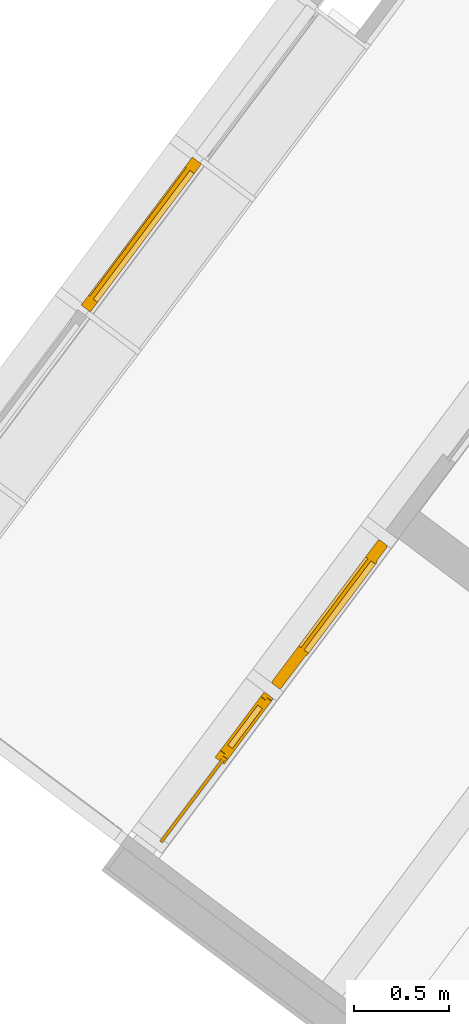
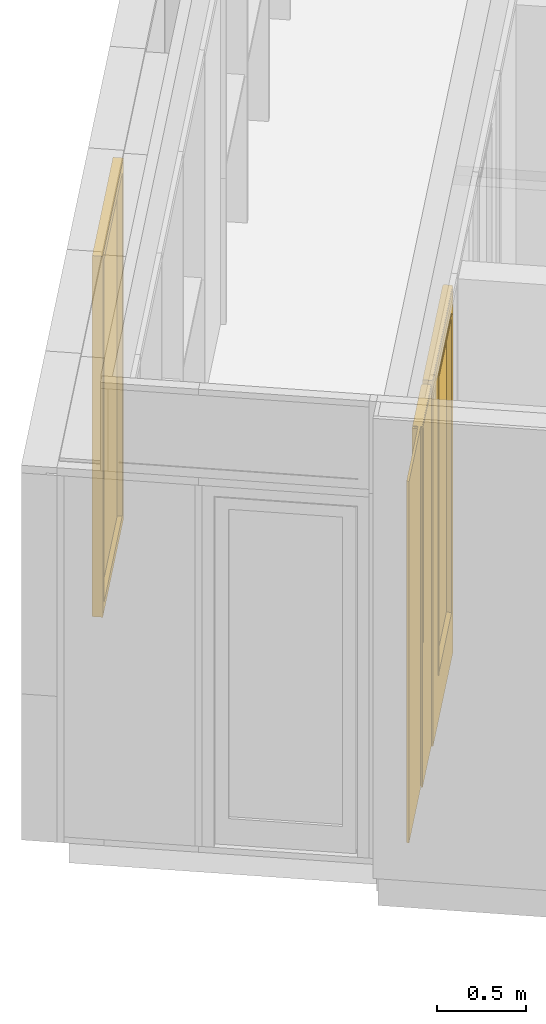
# One storey, part 158 of 243: 2 windows, 1 door, 2 elements without a shape of their own.
"""IFC2X3 building model written with IfcOpenShell, lengths in metres."""

from ifc_helpers import new_model, entity, si_unit, converted_unit, derived_unit, direction, frame, origin, place, context, subcontext, project, spatial, faceted_brep, source, transform, mapped, material, material_list, type_object, type_shapes, element, aggregate, save


model = new_model("IFC2X3")

# Units and contexts
model_context = context("Model", 3, precision=1e-05, world=origin(), true_north=direction((6.123031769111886e-17, 1.0)))
body_context = subcontext(model_context, "Body", "Model", "MODEL_VIEW")
ifc_project = project(units=[si_unit("LENGTHUNIT", "METRE"), si_unit("AREAUNIT", "SQUARE_METRE"), si_unit("VOLUMEUNIT", "CUBIC_METRE"), converted_unit("PLANEANGLEUNIT", "DEGREE", entity("IfcRatioMeasure", 0.017453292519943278), si_unit("PLANEANGLEUNIT", "RADIAN"), dimensions=[0, 0, 0, 0, 0, 0, 0]), si_unit("MASSUNIT", "GRAM", prefix="KILO"), derived_unit("MASSDENSITYUNIT", [(si_unit("MASSUNIT", "GRAM", prefix="KILO"), 1), (si_unit("LENGTHUNIT", "METRE"), -3)]), derived_unit("IONCONCENTRATIONUNIT", [(si_unit("MASSUNIT", "GRAM", prefix="KILO"), 1), (si_unit("LENGTHUNIT", "METRE"), -3)]), derived_unit("MOMENTOFINERTIAUNIT", [(si_unit("LENGTHUNIT", "METRE"), 4)]), si_unit("TIMEUNIT", "SECOND"), si_unit("FREQUENCYUNIT", "HERTZ"), si_unit("THERMODYNAMICTEMPERATUREUNIT", "DEGREE_CELSIUS"), derived_unit("THERMALTRANSMITTANCEUNIT", [(si_unit("MASSUNIT", "GRAM", prefix="KILO"), 1), (si_unit("THERMODYNAMICTEMPERATUREUNIT", "KELVIN"), -1), (si_unit("TIMEUNIT", "SECOND"), -3)]), derived_unit("THERMALCONDUCTANCEUNIT", [(si_unit("MASSUNIT", "GRAM", prefix="KILO"), 1), (si_unit("THERMODYNAMICTEMPERATUREUNIT", "KELVIN"), -1), (si_unit("TIMEUNIT", "SECOND"), -3), (si_unit("LENGTHUNIT", "METRE"), 1)]), derived_unit("VOLUMETRICFLOWRATEUNIT", [(si_unit("LENGTHUNIT", "METRE"), 3), (si_unit("TIMEUNIT", "SECOND"), -1)]), derived_unit("MASSFLOWRATEUNIT", [(si_unit("MASSUNIT", "GRAM", prefix="KILO"), 1), (si_unit("TIMEUNIT", "SECOND"), -1)]), derived_unit("ROTATIONALFREQUENCYUNIT", [(si_unit("TIMEUNIT", "SECOND"), -1)]), si_unit("ELECTRICCURRENTUNIT", "AMPERE"), si_unit("ELECTRICVOLTAGEUNIT", "VOLT"), si_unit("POWERUNIT", "WATT"), si_unit("FORCEUNIT", "NEWTON", prefix="KILO"), si_unit("ILLUMINANCEUNIT", "LUX"), si_unit("LUMINOUSFLUXUNIT", "LUMEN"), si_unit("LUMINOUSINTENSITYUNIT", "CANDELA"), derived_unit("USERDEFINED", [(si_unit("MASSUNIT", "GRAM", prefix="KILO"), -1), (si_unit("LENGTHUNIT", "METRE"), -2), (si_unit("TIMEUNIT", "SECOND"), 3), (si_unit("LUMINOUSFLUXUNIT", "LUMEN"), 1)]), derived_unit("USERDEFINED", [(si_unit("MASSUNIT", "GRAM", prefix="KILO"), 1), (si_unit("TIMEUNIT", "SECOND"), -3), (si_unit("LENGTHUNIT", "METRE"), 3), (si_unit("ELECTRICCURRENTUNIT", "AMPERE"), -2)]), derived_unit("SOUNDPOWERUNIT", [(si_unit("MASSUNIT", "GRAM", prefix="KILO"), 1), (si_unit("TIMEUNIT", "SECOND"), -3), (si_unit("LENGTHUNIT", "METRE"), 2)]), derived_unit("SOUNDPRESSUREUNIT", [(si_unit("MASSUNIT", "GRAM", prefix="KILO"), 1), (si_unit("LENGTHUNIT", "METRE"), -1), (si_unit("TIMEUNIT", "SECOND"), -2)]), derived_unit("LINEARVELOCITYUNIT", [(si_unit("LENGTHUNIT", "METRE"), 1), (si_unit("TIMEUNIT", "SECOND"), -1)]), si_unit("PRESSUREUNIT", "PASCAL"), derived_unit("USERDEFINED", [(si_unit("MASSUNIT", "GRAM", prefix="KILO"), 1), (si_unit("LENGTHUNIT", "METRE"), -2), (si_unit("TIMEUNIT", "SECOND"), -2)]), derived_unit("LINEARFORCEUNIT", [(si_unit("MASSUNIT", "GRAM", prefix="KILO"), 1), (si_unit("TIMEUNIT", "SECOND"), -2)]), derived_unit("PLANARFORCEUNIT", [(si_unit("MASSUNIT", "GRAM", prefix="KILO"), 1), (si_unit("LENGTHUNIT", "METRE"), -1), (si_unit("TIMEUNIT", "SECOND"), -2)]), derived_unit("SPECIFICHEATCAPACITYUNIT", [(si_unit("THERMODYNAMICTEMPERATUREUNIT", "KELVIN"), -1), (si_unit("LENGTHUNIT", "METRE"), 2), (si_unit("TIMEUNIT", "SECOND"), -2)]), derived_unit("HEATINGVALUEUNIT", [(si_unit("LENGTHUNIT", "METRE"), 2), (si_unit("TIMEUNIT", "SECOND"), -2)]), derived_unit("VAPORPERMEABILITYUNIT", [(si_unit("LENGTHUNIT", "METRE"), -1), (si_unit("TIMEUNIT", "SECOND"), 1)]), derived_unit("DYNAMICVISCOSITYUNIT", [(si_unit("MASSUNIT", "GRAM", prefix="KILO"), 1), (si_unit("TIMEUNIT", "SECOND"), -1), (si_unit("LENGTHUNIT", "METRE"), -1)]), derived_unit("THERMALEXPANSIONCOEFFICIENTUNIT", [(si_unit("THERMODYNAMICTEMPERATUREUNIT", "KELVIN"), -1)]), derived_unit("MODULUSOFELASTICITYUNIT", [(si_unit("MASSUNIT", "GRAM", prefix="KILO"), 1), (si_unit("LENGTHUNIT", "METRE"), -1), (si_unit("TIMEUNIT", "SECOND"), -2)]), derived_unit("ISOTHERMALMOISTURECAPACITYUNIT", [(si_unit("LENGTHUNIT", "METRE"), 3), (si_unit("MASSUNIT", "GRAM", prefix="KILO"), -1)]), derived_unit("MOISTUREDIFFUSIVITYUNIT", [(si_unit("TIMEUNIT", "SECOND"), -1), (si_unit("LENGTHUNIT", "METRE"), 2)])], contexts=[model_context])

# Site, building, storey
site_placement = place(None, frame((0.0, 0.0, 235.0), z_axis=(0.0, 0.0, 1.0), x_axis=(-0.7996477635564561, 0.6004693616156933, 0.0)))
site = spatial("IfcSite", under=ifc_project, at=site_placement, Name="Default", CompositionType="ELEMENT")
building_placement = place(site_placement, origin())
building = spatial("IfcBuilding", under=site, at=building_placement, CompositionType="ELEMENT")
storey_placement = place(building_placement, origin())
storey = spatial("IfcBuildingStorey", under=building, at=storey_placement, Name="P0- Escola", CompositionType="ELEMENT", Elevation=0.0)

# Curtain wall, door, window
curtain_wall_type_1 = type_object("IfcCurtainWallType", Name="Muro cortina:MC- INT- a2", PredefinedType="NOTDEFINED")
curtain_wall_1_placement = place(storey_placement, origin())
curtain_wall_1 = element("IfcCurtainWall", 1, at=curtain_wall_1_placement, inside=storey, type_object=curtain_wall_type_1, Name="Muro cortina:MC- INT- a2", ObjectType="Muro cortina:MC- INT- a2")
ifc_material_1 = material(Name="_Fusta massisa- T1")
ifc_material_2 = material(Name="_Vidre")
ifc_material_list_1 = material_list([ifc_material_1, ifc_material_2])
door_style = type_object("IfcDoorStyle", Name="MC- Fusta- conjunt porta:MC- Fusta- conjunt Porta aules", ConstructionType="NOTDEFINED", OperationType="NOTDEFINED", ParameterTakesPrecedence=False, Sizeable=False, material=ifc_material_list_1)
shared_shape_1 = source(origin(), body_context, "Body", "Brep", [
    faceted_brep([(-0.24500000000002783, -0.024999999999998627, 2.3799999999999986), (-0.24500000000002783, 0.0050000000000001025, 2.3799999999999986), (-0.24500000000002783, 0.0050000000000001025, 0.3299999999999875), (-0.24500000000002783, -0.024999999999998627, 0.3299999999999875), (0.3700000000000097, 0.0050000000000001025, 0.3299999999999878), (0.3700000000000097, -0.024999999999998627, 0.3299999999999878), (0.37000000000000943, 0.0050000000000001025, 2.3799999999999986), (0.37000000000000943, -0.024999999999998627, 2.3799999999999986), (-0.23000000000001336, 0.0050000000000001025, 2.3650000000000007), (-0.23000000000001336, 0.0050000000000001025, 0.34499999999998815), (0.35499999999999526, 0.0050000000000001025, 0.3449999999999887), (0.35499999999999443, 0.0050000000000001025, 2.3650000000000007), (-0.23000000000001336, -0.024999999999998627, 2.3650000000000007), (0.35499999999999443, -0.024999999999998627, 2.3650000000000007), (0.35499999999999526, -0.024999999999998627, 0.3449999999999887), (-0.23000000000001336, -0.024999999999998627, 0.34499999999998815)], [[[0, 1, 2, 3]], [[3, 2, 4, 5]], [[5, 4, 6, 7]], [[8, 9, 10, 11], [1, 6, 4, 2]], [[12, 13, 14, 15], [0, 3, 5, 7]], [[15, 9, 8, 12]], [[14, 10, 9, 15]], [[13, 11, 10, 14]], [[7, 6, 1, 0]], [[12, 8, 11, 13]]], outer=[[True], [True], [True], [False, True], [False, True], [True], [True], [True], [True], [True]]),
    faceted_brep([(-0.43999999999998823, 0.03999999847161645, 0.0), (0.43999999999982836, 0.039999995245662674, 0.0), (0.43999999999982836, 0.009999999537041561, 0.0), (0.45499999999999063, 0.009999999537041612, 0.0), (0.45499999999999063, -0.019999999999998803, 0.0), (-0.4550000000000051, -0.01999999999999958, 0.0), (-0.4550000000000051, 0.0099999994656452, 0.0), (-0.43999999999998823, 0.0099999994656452, 0.0), (-0.4550000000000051, -0.01999999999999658, 2.4899999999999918), (0.45499999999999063, -0.01999999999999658, 2.4899999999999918), (-0.24500000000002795, -0.019999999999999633, 0.3300000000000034), (-0.24500000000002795, -0.01999999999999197, 2.3799999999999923), (0.37000000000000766, -0.019999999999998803, 2.3799999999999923), (0.37000000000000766, -0.019999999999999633, 0.3300000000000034), (-0.45500000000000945, 0.0099999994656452, 2.4899999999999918), (0.45499999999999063, 0.0099999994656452, 2.4899999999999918), (-0.43999999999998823, 0.03999999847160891, 2.4749999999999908), (-0.43999999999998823, 0.0099999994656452, 2.4749999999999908), (0.43999999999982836, 0.0099999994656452, 2.4749999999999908), (0.43999999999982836, 0.039999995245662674, 2.4749999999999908), (0.3549999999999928, 0.03999999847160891, 0.3450000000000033), (0.3549999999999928, 0.03999999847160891, 2.364999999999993), (-0.2300000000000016, 0.039999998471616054, 2.364999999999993), (-0.2300000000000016, 0.03999999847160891, 0.3450000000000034), (-0.2300000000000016, 0.025000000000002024, 0.3450000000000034), (0.3549999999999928, 0.025000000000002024, 0.3450000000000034), (-0.2300000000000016, 0.025000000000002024, 2.364999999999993), (0.3549999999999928, 0.024999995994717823, 2.364999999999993), (0.37000000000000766, 0.025000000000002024, 0.3300000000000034), (0.37000000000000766, 0.025000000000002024, 2.3799999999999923), (-0.24500000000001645, 0.025000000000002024, 2.3799999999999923), (-0.24500000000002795, 0.025000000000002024, 0.3300000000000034), (-0.24500000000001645, 0.024999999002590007, 0.3300000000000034), (-0.24500000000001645, 0.024999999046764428, 2.3799999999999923), (0.3549999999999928, 0.03999999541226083, 2.364999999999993), (-0.2300000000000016, 0.024999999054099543, 2.364999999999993), (0.37000000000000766, 0.02499999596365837, 2.3799999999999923)], [[[0, 1, 2, 3, 4, 5, 6, 7]], [[8, 5, 4, 9], [10, 11, 12, 13]], [[8, 14, 6, 5]], [[15, 9, 4, 3]], [[16, 0, 7, 17]], [[14, 15, 3, 2, 18, 17, 7, 6]], [[18, 2, 1, 19]], [[20, 21, 22, 23], [16, 19, 1, 0]], [[23, 24, 25, 20]], [[23, 22, 26, 24]], [[25, 27, 21, 20]], [[24, 26, 27, 25], [28, 29, 30, 31]], [[13, 28, 32, 10]], [[31, 33, 11, 10]], [[13, 12, 29, 28]], [[9, 15, 14, 8]], [[17, 18, 19, 16]], [[34, 27, 35, 22]], [[11, 30, 36, 12]]], outer=[[True], [True, False], [True], [True], [True], [True], [True], [False, True], [True], [True], [True], [False, True], [True], [True], [True], [True], [True], [True], [True]]),
    faceted_brep([(0.37000000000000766, 0.024999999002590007, 0.3300000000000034), (0.37000000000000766, 0.0050000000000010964, 0.3300000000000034), (-0.2450000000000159, 0.0050000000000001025, 0.3300000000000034), (-0.2450000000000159, 0.024999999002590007, 0.3300000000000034), (0.37000000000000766, 0.024999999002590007, 2.380000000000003), (-0.2450000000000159, 0.024999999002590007, 2.380000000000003), (-0.2450000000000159, 0.0050000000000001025, 2.380000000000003), (0.37000000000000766, 0.0050000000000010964, 2.380000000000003)], [[[0, 1, 2, 3]], [[4, 0, 3, 5]], [[5, 3, 2, 6]], [[6, 2, 1, 7]], [[7, 1, 0, 4]], [[4, 5, 6, 7]]]),
    faceted_brep([(-0.46500000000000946, -0.01999999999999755, 0.0), (-0.46500000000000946, -0.015999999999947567, 0.0), (-0.469999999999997, -0.015999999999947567, 0.0), (-0.469999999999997, 0.03600000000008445, 0.0), (-0.46500000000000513, 0.03600000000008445, 0.0), (-0.46500000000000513, 0.0400000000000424, 0.0), (-0.44000000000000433, 0.0400000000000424, 0.0), (-0.44000000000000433, 0.010000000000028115, 0.0), (-0.4550000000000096, 0.010000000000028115, 0.0), (-0.4550000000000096, -0.01999999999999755, 0.0), (-0.45500000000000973, -0.01999999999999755, 2.4900000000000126), (0.45500000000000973, -0.01999999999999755, 2.4900000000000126), (0.45500000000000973, -0.01999999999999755, 0.0), (0.46500000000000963, -0.01999999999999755, 0.0), (0.46500000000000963, -0.01999999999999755, 2.5000000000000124), (-0.4650000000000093, -0.01999999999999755, 2.500000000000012), (-0.4550000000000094, 0.010000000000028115, 2.4900000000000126), (-0.4400000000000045, 0.010000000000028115, 2.4750000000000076), (0.4400000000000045, 0.010000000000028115, 2.4750000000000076), (0.4400000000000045, 0.010000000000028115, 0.0), (0.45500000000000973, 0.010000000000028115, 0.0), (0.45500000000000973, 0.010000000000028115, 2.4900000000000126), (-0.4400000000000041, 0.0400000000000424, 2.4750000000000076), (-0.4650000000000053, 0.0400000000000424, 2.5000000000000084), (0.4650000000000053, 0.0400000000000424, 2.5000000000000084), (0.4650000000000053, 0.0400000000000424, 0.0), (0.4400000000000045, 0.0400000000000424, 0.0), (0.4400000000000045, 0.0400000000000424, 2.4750000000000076), (-0.46500000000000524, 0.03600000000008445, 2.5000000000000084), (-0.4699999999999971, 0.03600000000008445, 2.5050000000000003), (0.4699999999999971, 0.03600000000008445, 2.5050000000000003), (0.4699999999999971, 0.03600000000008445, 0.0), (0.4650000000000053, 0.03600000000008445, 0.0), (0.4650000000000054, 0.03600000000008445, 2.5000000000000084), (-0.46999999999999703, -0.015999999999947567, 2.5050000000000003), (-0.46500000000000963, -0.015999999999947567, 2.5000000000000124), (0.46500000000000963, -0.015999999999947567, 2.5000000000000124), (0.46500000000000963, -0.015999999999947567, 0.0), (0.4699999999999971, -0.015999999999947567, 0.0), (0.46999999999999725, -0.015999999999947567, 2.5050000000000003)], [[[0, 1, 2, 3, 4, 5, 6, 7, 8, 9]], [[9, 10, 11, 12, 13, 14, 15, 0]], [[8, 16, 10, 9]], [[7, 17, 18, 19, 20, 21, 16, 8]], [[6, 22, 17, 7]], [[5, 23, 24, 25, 26, 27, 22, 6]], [[4, 28, 23, 5]], [[3, 29, 30, 31, 32, 33, 28, 4]], [[2, 34, 29, 3]], [[1, 35, 36, 37, 38, 39, 34, 2]], [[0, 15, 35, 1]], [[14, 13, 37, 36]], [[13, 12, 20, 19, 26, 25, 32, 31, 38, 37]], [[21, 20, 12, 11]], [[27, 26, 19, 18]], [[33, 32, 25, 24]], [[39, 38, 31, 30]], [[16, 21, 11, 10]], [[22, 27, 18, 17]], [[28, 33, 24, 23]], [[34, 39, 30, 29]], [[15, 14, 36, 35]]]),
])
type_shapes(door_style, [shared_shape_1])
door_placement = place(curtain_wall_1_placement, frame((34.62014768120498, -21.915191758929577, 0.0), z_axis=(0.0, 0.0, 1.0), x_axis=(0.0, -1.0, 0.0)))
door = element("IfcDoor", 2, at=door_placement, type_object=door_style, material=ifc_material_list_1, Name="MC- Fusta- conjunt porta:MC- Fusta- conjunt Porta aules", ObjectType="MC- Fusta- conjunt porta:MC- Fusta- conjunt Porta aules", OverallHeight=2.5050000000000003, OverallWidth=0.9399999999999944, context=body_context, shape_type="MappedRepresentation", body=[
    mapped(shared_shape_1, transform((0.0, 0.0, 0.0), scale=1.0)),
])
ifc_material_3 = material(Name="_Fusta massisa- T1-  REV- PAV")
ifc_material_list_2 = material_list([ifc_material_3, ifc_material_2])
window_style_1 = type_object("IfcWindowStyle", Name="MC- Fusta- Finestra ventilacio interior- Panell vidre:MC- Fusta- Finestra ventilacio interior- Panell vidre", ConstructionType="NOTDEFINED", OperationType="NOTDEFINED", ParameterTakesPrecedence=False, Sizeable=False, material=ifc_material_list_2)
shared_shape_2 = source(origin(), body_context, "Body", "Brep", [
    faceted_brep([(0.4005000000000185, 0.025000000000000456, 2.3979999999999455), (0.1395000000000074, 0.024999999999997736, 2.397999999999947), (0.13950000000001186, 0.024999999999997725, 1.0449999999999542), (0.40050000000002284, 0.02500000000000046, 1.0449999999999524), (0.1395000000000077, -0.0050000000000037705, 2.397999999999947), (0.13950000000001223, -0.0050000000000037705, 1.0449999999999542), (0.4005000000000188, -0.005000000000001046, 2.3979999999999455), (0.4005000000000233, -0.005000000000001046, 1.0449999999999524), (0.09450000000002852, 0.03999999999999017, 2.4429999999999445), (0.09450000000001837, 0.03999999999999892, 1.0), (0.09450000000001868, 0.0099999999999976, 1.0), (0.09450000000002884, 0.009999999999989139, 2.4429999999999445), (0.4455000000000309, 0.01000000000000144, 1.0), (0.4455000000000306, 0.040000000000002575, 1.0), (0.4455000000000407, 0.039999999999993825, 2.4429999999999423), (0.445500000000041, 0.010000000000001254, 2.443000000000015), (0.07950000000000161, 0.009999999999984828, 0.9850000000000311), (0.07949999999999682, 0.010000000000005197, 2.458000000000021), (0.46050000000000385, 0.010000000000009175, 2.4580000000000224), (0.4605000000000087, 0.009999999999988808, 0.9850000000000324), (0.07949999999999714, -0.019999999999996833, 2.4580000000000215), (0.07950000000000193, -0.0200000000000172, 0.9850000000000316), (0.460500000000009, -0.020000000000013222, 0.985000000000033), (0.46050000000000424, -0.019999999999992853, 2.458000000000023)], [[[0, 1, 2, 3]], [[1, 4, 5, 2]], [[4, 6, 7, 5]], [[3, 7, 6, 0]], [[8, 9, 10, 11]], [[12, 13, 14, 15]], [[15, 14, 8, 11]], [[8, 14, 13, 9]], [[0, 6, 4, 1]], [[2, 5, 7, 3]], [[9, 13, 12, 10]], [[11, 10, 12, 15], [16, 17, 18, 19]], [[20, 21, 22, 23]], [[20, 23, 18, 17]], [[16, 21, 20, 17]], [[18, 23, 22, 19]], [[16, 19, 22, 21]]], outer=[[True], [True], [True], [True], [True], [True], [True], [True], [True], [True], [True], [False, True], [True], [True], [True], [True], [True]]),
    faceted_brep([(-0.4775000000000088, -0.007500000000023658, 0.0), (-0.47750000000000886, 0.007499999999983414, 0.0), (0.06250000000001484, 0.007499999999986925, 0.0), (0.06250000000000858, -0.00750000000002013, 0.0), (-0.4775000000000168, -0.007500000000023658, 2.4749999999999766), (-0.4775000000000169, 0.007499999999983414, 2.4749999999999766), (0.06250000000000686, 0.007499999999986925, 2.4749999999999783), (0.06250000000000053, -0.00750000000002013, 2.4749999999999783)], [[[0, 1, 2, 3]], [[4, 5, 1, 0]], [[5, 6, 2, 1]], [[6, 7, 3, 2]], [[7, 4, 0, 3]], [[4, 7, 6, 5]]]),
    faceted_brep([(0.4625000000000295, -0.020000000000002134, 0.9850000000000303), (0.07750000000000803, -0.020000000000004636, 0.9850000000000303), (0.07750000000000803, -0.019999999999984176, 2.4599999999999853), (0.46250000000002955, -0.019999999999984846, 2.459999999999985), (0.46250000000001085, -0.02000000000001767, 0.015000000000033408), (0.46250000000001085, -0.020000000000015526, 0.020000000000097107), (0.47250000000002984, -0.020000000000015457, 0.020000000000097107), (0.47250000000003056, -0.019999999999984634, 2.4700000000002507), (0.04750000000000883, -0.01999999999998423, 2.470000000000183), (0.047500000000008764, -0.02000000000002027, 0.015000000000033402), (0.4725000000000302, -0.015999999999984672, 2.4699999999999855), (0.4725000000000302, -0.01600000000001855, 0.02000000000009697), (0.4625000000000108, -0.016000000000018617, 0.02000000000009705), (0.47750000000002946, -0.015999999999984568, 2.4749999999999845), (0.06250000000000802, -0.015999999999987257, 2.4749999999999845), (0.062500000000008, -0.015999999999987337, 2.47000000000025), (0.4625000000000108, -0.016000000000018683, 0.015000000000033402), (0.4775000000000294, -0.016000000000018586, 0.015000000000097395), (0.06250000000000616, 0.03600000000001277, 2.474999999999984), (0.4775000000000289, 0.03600000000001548, 2.4749999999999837), (0.47750000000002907, 0.035999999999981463, 0.015000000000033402), (0.44750000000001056, 0.03599999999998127, 0.015000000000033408), (0.44750000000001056, 0.03599999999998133, 0.020000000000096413), (0.4725000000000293, 0.0359999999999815, 0.02000000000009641), (0.47250000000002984, 0.03600000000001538, 2.4700000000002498), (0.06250000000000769, 0.03600000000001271, 2.4699999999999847), (0.4725000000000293, 0.03999999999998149, 0.020000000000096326), (0.44750000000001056, 0.03999999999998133, 0.020000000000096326), (0.09250000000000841, 0.039999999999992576, 1.0), (0.447500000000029, 0.03999999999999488, 1.0), (0.44750000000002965, 0.040000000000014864, 2.4449999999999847), (0.09250000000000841, 0.04000000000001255, 2.4449999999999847), (0.44750000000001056, 0.039999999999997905, 0.015000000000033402), (0.047500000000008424, 0.039999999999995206, 0.015000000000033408), (0.047500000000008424, 0.039999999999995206, 2.4700000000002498), (0.47250000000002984, 0.04000000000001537, 2.469999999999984), (0.4625000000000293, 0.00999999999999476, 0.9850000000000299), (0.46250000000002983, 0.010000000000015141, 2.459999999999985), (0.09250000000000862, 0.010000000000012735, 2.459999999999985), (0.07750000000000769, 0.010000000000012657, 2.459999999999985), (0.07750000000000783, 0.009999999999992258, 0.9850000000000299), (0.09250000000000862, 0.009999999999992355, 0.9850000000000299), (0.44750000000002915, 0.009999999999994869, 1.0), (0.09250000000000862, 0.009999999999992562, 1.0), (0.09250000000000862, 0.010000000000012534, 2.444999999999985), (0.4475000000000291, 0.010000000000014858, 2.444999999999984), (0.06250000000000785, 0.009999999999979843, 2.470000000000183), (0.06250000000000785, 0.009999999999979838, 0.015000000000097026), (0.06250000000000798, -0.010000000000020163, 0.015000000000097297), (0.06250000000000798, -0.010000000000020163, 2.470000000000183), (0.047500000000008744, -0.01000000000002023, 2.470000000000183), (0.047500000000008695, -0.010000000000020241, 0.015000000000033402), (0.04750000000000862, 0.00999999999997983, 2.47000000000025), (0.04750000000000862, 0.009999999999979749, 0.015000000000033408)], [[[0, 1, 2, 3], [4, 5, 6, 7, 8, 9]], [[10, 7, 6, 11]], [[11, 6, 5, 12]], [[13, 14, 15, 10, 11, 12, 16, 17]], [[18, 19, 20, 21, 22, 23, 24, 25]], [[26, 23, 22, 27]], [[28, 29, 30, 31], [27, 32, 33, 34, 35, 26]], [[36, 37, 38, 39, 40, 41], [42, 43, 44, 45]], [[28, 43, 42, 29]], [[43, 28, 31, 44]], [[45, 30, 29, 42]], [[3, 37, 36, 0]], [[1, 40, 39, 2]], [[40, 1, 0, 36, 41]], [[14, 18, 25, 46, 47, 48, 49, 15]], [[8, 50, 51, 9]], [[52, 34, 33, 53]], [[47, 46, 52, 53]], [[50, 49, 48, 51]], [[19, 13, 17, 20]], [[7, 10, 15, 49, 50, 8]], [[13, 19, 18, 14]], [[37, 3, 2, 39, 38]], [[30, 45, 44, 31]], [[4, 16, 12, 5]], [[4, 9, 51, 48, 47, 53, 33, 32, 21, 20, 17, 16]], [[32, 27, 22, 21]], [[24, 35, 34, 52, 46, 25]], [[35, 24, 23, 26]]], outer=[[False, True], [True], [True], [True], [True], [True], [False, True], [True, False], [True], [True], [True], [True], [True], [True], [True], [True], [True], [True], [True], [True], [True], [True], [True], [True], [True], [True], [True], [True], [True]]),
])
type_shapes(window_style_1, [shared_shape_2])
window_1_placement = place(curtain_wall_1_placement, frame((34.62014768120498, -20.907691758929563, 0.045000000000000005), z_axis=(0.0, 0.0, 1.0), x_axis=(0.0, -1.0, 0.0)))
window_1 = element("IfcWindow", 3, at=window_1_placement, type_object=window_style_1, material=ifc_material_list_2, Name="MC- Fusta- Finestra ventilacio interior- Panell vidre:MC- Fusta- Finestra ventilacio interior- Panell vidre", ObjectType="MC- Fusta- Finestra ventilacio interior- Panell vidre:MC- Fusta- Finestra ventilacio interior- Panell vidre", OverallHeight=2.4750000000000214, OverallWidth=0.9550000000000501, context=body_context, shape_type="MappedRepresentation", body=[
    mapped(shared_shape_2, transform((0.0, 0.0, 0.0), scale=1.0)),
])
aggregate(curtain_wall_1, [door, window_1])

# Curtain wall, window
curtain_wall_type_2 = type_object("IfcCurtainWallType", Name="Muro cortina:MC- EXT- MC5", PredefinedType="NOTDEFINED")
curtain_wall_2_placement = place(storey_placement, origin())
curtain_wall_2 = element("IfcCurtainWall", 4, at=curtain_wall_2_placement, inside=storey, type_object=curtain_wall_type_2, Name="Muro cortina:MC- EXT- MC5", ObjectType="Muro cortina:MC- EXT- MC5")
ifc_material_4 = material(Name="_Alumini- T1- Perfil")
ifc_material_list_3 = material_list([ifc_material_2, ifc_material_4])
window_style_2 = type_object("IfcWindowStyle", Name="MC- Alu- Conjunt vidre fix- 62x60 cm:MC- Alu- Conjunt vidre fix- 62x60 cm", ConstructionType="NOTDEFINED", OperationType="NOTDEFINED", ParameterTakesPrecedence=False, Sizeable=False, material=ifc_material_list_3)
shared_shape_3 = source(origin(), body_context, "Body", "Brep", [
    faceted_brep([(-0.43619328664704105, -0.007600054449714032, 0.048806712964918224), (0.43619328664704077, -0.007600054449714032, 0.048806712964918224), (0.43619328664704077, -0.03160022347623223, 0.048806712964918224), (-0.43619328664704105, -0.03160022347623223, 0.048806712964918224), (-0.43619328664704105, -0.007600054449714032, 2.422449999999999), (0.43619328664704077, -0.007600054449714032, 2.422449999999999), (0.43619328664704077, -0.03160022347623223, 2.422449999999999), (-0.43619328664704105, -0.03160022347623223, 2.422449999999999)], [[[0, 1, 2, 3]], [[4, 5, 1, 0]], [[5, 6, 2, 1]], [[6, 7, 3, 2]], [[7, 4, 0, 3]], [[4, 7, 6, 5]]]),
    faceted_brep([(-0.4849999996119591, -0.05999999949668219, 2.471449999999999), (-0.4849999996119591, 0.0, 2.471449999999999), (-0.4849999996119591, 0.0, 0.0), (-0.48499999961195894, -0.05999999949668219, 0.0), (-0.4221931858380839, 0.0, 2.408643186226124), (-0.4221931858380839, 0.0, 0.06280681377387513), (0.42219318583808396, 0.0, 0.06280681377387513), (0.422193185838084, 0.0, 2.408643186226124), (0.4849999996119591, 0.0, 2.471449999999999), (0.4849999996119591, 0.0, 0.0), (0.48499999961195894, -0.05999999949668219, 0.0), (0.4849999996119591, -0.05999999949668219, 2.471449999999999), (0.42219603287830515, -0.05999999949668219, 2.408646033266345), (0.42219603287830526, -0.05999999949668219, 0.06280396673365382), (-0.42219603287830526, -0.05999999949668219, 0.06280396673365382), (-0.42219603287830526, -0.05999999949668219, 2.4086460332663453), (-0.42219603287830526, -0.03160022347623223, 2.4086460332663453), (-0.4221960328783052, -0.03160022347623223, 0.06280396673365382), (0.4221960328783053, -0.03160022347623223, 0.06280396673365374), (0.42219603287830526, -0.03160022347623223, 2.4086460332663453), (0.43619328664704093, -0.03160022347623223, 2.422643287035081), (0.43619328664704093, -0.03160022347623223, 0.048806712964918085), (-0.4361932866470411, -0.03160022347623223, 0.04880671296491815), (-0.43619328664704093, -0.03160022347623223, 2.422643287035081), (-0.43619328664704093, -0.007600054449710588, 2.422643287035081), (-0.4361932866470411, -0.007600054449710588, 0.04880671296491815), (0.43619328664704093, -0.007600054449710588, 0.048806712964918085), (0.43619328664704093, -0.007600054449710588, 2.422643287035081), (0.42219318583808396, -0.007600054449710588, 2.408643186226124), (0.42219318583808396, -0.007600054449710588, 0.06280681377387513), (-0.42219318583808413, -0.007600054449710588, 0.06280681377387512), (-0.4221931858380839, -0.007600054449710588, 2.408643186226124)], [[[0, 1, 2, 3]], [[4, 5, 6, 7], [8, 9, 2, 1]], [[3, 2, 9, 10]], [[0, 3, 10, 11], [12, 13, 14, 15]], [[16, 15, 14, 17]], [[17, 14, 13, 18]], [[16, 17, 18, 19], [20, 21, 22, 23]], [[24, 23, 22, 25]], [[25, 22, 21, 26]], [[24, 25, 26, 27], [28, 29, 30, 31]], [[4, 31, 30, 5]], [[5, 30, 29, 6]], [[10, 9, 8, 11]], [[18, 13, 12, 19]], [[26, 21, 20, 27]], [[6, 29, 28, 7]], [[11, 8, 1, 0]], [[19, 12, 15, 16]], [[27, 20, 23, 24]], [[7, 28, 31, 4]]], outer=[[True], [False, True], [True], [True, False], [True], [True], [False, True], [True], [True], [True, False], [True], [True], [True], [True], [True], [True], [True], [True], [True], [True]]),
])
type_shapes(window_style_2, [shared_shape_3])
window_2_placement = place(curtain_wall_2_placement, frame((36.6451476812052, -22.915191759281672, 0.03229999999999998), z_axis=(0.0, 0.0, 1.0), x_axis=(0.0, -1.0, 0.0)))
window_2 = element("IfcWindow", 5, at=window_2_placement, type_object=window_style_2, material=ifc_material_list_3, Name="MC- Alu- Conjunt vidre fix- 62x60 cm:MC- Alu- Conjunt vidre fix- 62x60 cm", ObjectType="MC- Alu- Conjunt vidre fix- 62x60 cm:MC- Alu- Conjunt vidre fix- 62x60 cm", OverallHeight=2.471449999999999, OverallWidth=0.9699999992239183, context=body_context, shape_type="MappedRepresentation", body=[
    mapped(shared_shape_3, transform((0.0, 0.0, 0.0), scale=1.0)),
])
aggregate(curtain_wall_2, [window_2])

save(model, "model.ifc")
